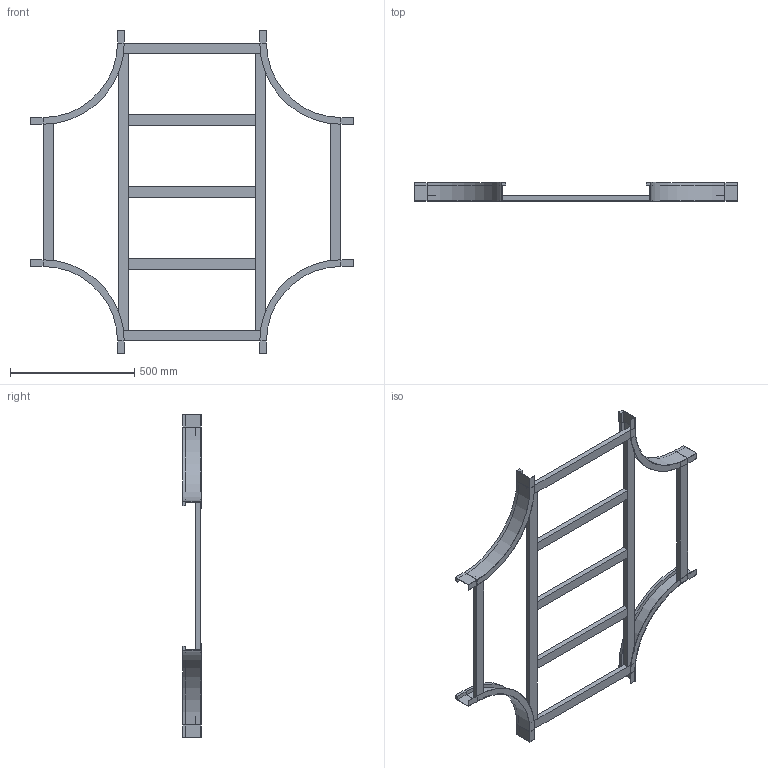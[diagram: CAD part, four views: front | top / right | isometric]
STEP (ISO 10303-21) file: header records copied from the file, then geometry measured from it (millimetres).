
FILE_DESCRIPTION (( 'STEP AP214' ), '1' );
FILE_NAME ('B2_17B3C600.step', '2025-02-21T15:59:16', ( '' ), ( '' ), 'SwSTEP 2.0', 'SolidWorks 2023', '' );
FILE_SCHEMA (( 'AUTOMOTIVE_DESIGN' ));
Length unit declared in the file: millimetre
Products named in the file (5): B2_17B3C600; B2_TRAVERSINO_LONG._R300+600; TRAVERSINO_600; TRAVERSINO_INTERMEDIO_R300+600; B2_LONGH.INTERNO 90°_H75_R300
Assembly tree (13 placements, depth 2):
  B2_17B3C600
    B2_LONGH.INTERNO 90°_H75_R300  x4
    TRAVERSINO_600  x4
    B2_TRAVERSINO_LONG._R300+600  x2
    TRAVERSINO_INTERMEDIO_R300+600  x3
Bounding box: 1300 x 75 x 1300 mm (x, y, z)
Volume: 5908534.1 mm3; surface area: 1312226.6 mm2
Topology: 13 solids, 13 shells, 158 faces, 332 edges, 200 vertices
Faces by surface type: plane 142, cylinder 16
Entity records: 1362 total; most frequent: DIRECTION 220, CARTESIAN_POINT 208, ORIENTED_EDGE 184, EDGE_CURVE 92, LINE 84, VECTOR 84, AXIS2_PLACEMENT_3D 68, VERTEX_POINT 56
